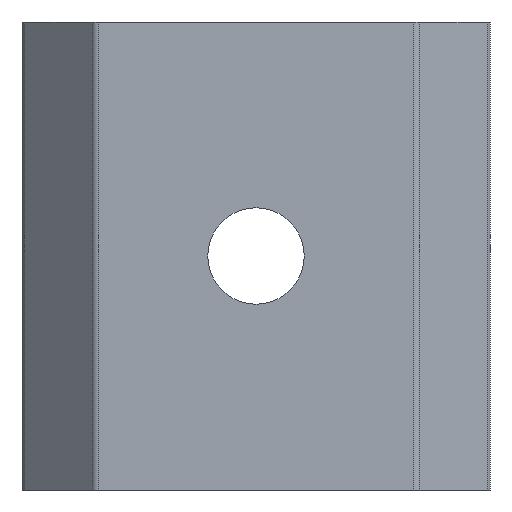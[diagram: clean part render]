
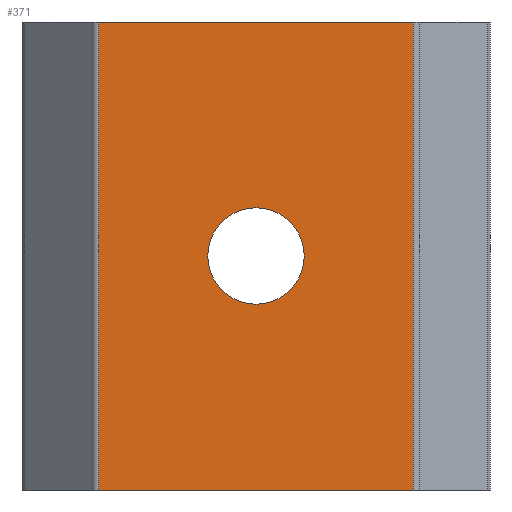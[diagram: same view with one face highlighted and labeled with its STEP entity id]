
A CAD part, front view. The second image highlights one B-rep face of the part: STEP entity #371.
In plain terms, the highlighted planar face has unit normal (0, -1, 0).
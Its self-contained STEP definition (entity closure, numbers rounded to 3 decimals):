
#25 = EDGE_LOOP ( 'NONE', ( #153, #78 ) ) ;
#56 = ORIENTED_EDGE ( 'NONE', *, *, #351, .T. ) ;
#73 = ORIENTED_EDGE ( 'NONE', *, *, #302, .T. ) ;
#74 = LINE ( 'NONE', #636, #802 ) ;
#78 = ORIENTED_EDGE ( 'NONE', *, *, #333, .T. ) ;
#100 = ORIENTED_EDGE ( 'NONE', *, *, #303, .F. ) ;
#134 = EDGE_LOOP ( 'NONE', ( #100, #56, #179, #73 ) ) ;
#144 = LINE ( 'NONE', #662, #737 ) ;
#151 = VERTEX_POINT ( 'NONE', #659 ) ;
#153 = ORIENTED_EDGE ( 'NONE', *, *, #399, .T. ) ;
#179 = ORIENTED_EDGE ( 'NONE', *, *, #319, .T. ) ;
#181 = LINE ( 'NONE', #647, #847 ) ;
#183 = VERTEX_POINT ( 'NONE', #674 ) ;
#211 = VERTEX_POINT ( 'NONE', #671 ) ;
#220 = VERTEX_POINT ( 'NONE', #689 ) ;
#231 = VERTEX_POINT ( 'NONE', #684 ) ;
#242 = VERTEX_POINT ( 'NONE', #668 ) ;
#258 = FACE_BOUND ( 'NONE', #25, .T. ) ;
#266 = LINE ( 'NONE', #445, #810 ) ;
#279 = FACE_OUTER_BOUND ( 'NONE', #134, .T. ) ;
#302 = EDGE_CURVE ( 'NONE', #242, #231, #144, .T. ) ;
#303 = EDGE_CURVE ( 'NONE', #183, #231, #181, .T. ) ;
#319 = EDGE_CURVE ( 'NONE', #151, #242, #74, .T. ) ;
#333 = EDGE_CURVE ( 'NONE', #220, #211, #804, .T. ) ;
#351 = EDGE_CURVE ( 'NONE', #183, #151, #266, .T. ) ;
#371 = ADVANCED_FACE ( 'NONE', ( #258, #279 ), #578, .F. ) ;
#399 = EDGE_CURVE ( 'NONE', #211, #220, #786, .T. ) ;
#435 = CARTESIAN_POINT ( 'NONE',  ( 0., 0., 0. ) ) ;
#445 = CARTESIAN_POINT ( 'NONE',  ( -5.376, 0., 8. ) ) ;
#446 = DIRECTION ( 'NONE',  ( 0., 0., -1. ) ) ;
#509 = DIRECTION ( 'NONE',  ( 0., 1., 0. ) ) ;
#518 = DIRECTION ( 'NONE',  ( 0., 0., 1. ) ) ;
#519 = CARTESIAN_POINT ( 'NONE',  ( 0., 0., 0. ) ) ;
#533 = DIRECTION ( 'NONE',  ( 0., 0., 1. ) ) ;
#541 = DIRECTION ( 'NONE',  ( 0., 1., 0. ) ) ;
#575 = DIRECTION ( 'NONE',  ( -1., 0., 0. ) ) ;
#576 = DIRECTION ( 'NONE',  ( 0., 1., 0. ) ) ;
#577 = CARTESIAN_POINT ( 'NONE',  ( 5.5, 0., 8. ) ) ;
#578 = PLANE ( 'NONE',  #763 ) ;
#631 = DIRECTION ( 'NONE',  ( 1., 0., 0. ) ) ;
#636 = CARTESIAN_POINT ( 'NONE',  ( 5.5, 0., -8. ) ) ;
#637 = DIRECTION ( 'NONE',  ( 1., 0., 0. ) ) ;
#647 = CARTESIAN_POINT ( 'NONE',  ( 5.5, 0., 8. ) ) ;
#656 = DIRECTION ( 'NONE',  ( 0., 0., 1. ) ) ;
#659 = CARTESIAN_POINT ( 'NONE',  ( -5.376, 0., -8. ) ) ;
#662 = CARTESIAN_POINT ( 'NONE',  ( 5.376, 0., 8. ) ) ;
#668 = CARTESIAN_POINT ( 'NONE',  ( 5.376, 0., -8. ) ) ;
#671 = CARTESIAN_POINT ( 'NONE',  ( 0., 0., 1.65 ) ) ;
#674 = CARTESIAN_POINT ( 'NONE',  ( -5.376, 0., 8. ) ) ;
#684 = CARTESIAN_POINT ( 'NONE',  ( 5.376, 0., 8. ) ) ;
#689 = CARTESIAN_POINT ( 'NONE',  ( 0., 0., -1.65 ) ) ;
#723 = AXIS2_PLACEMENT_3D ( 'NONE', #519, #509, #518 ) ;
#733 = AXIS2_PLACEMENT_3D ( 'NONE', #435, #541, #533 ) ;
#737 = VECTOR ( 'NONE', #656, 1000. ) ;
#763 = AXIS2_PLACEMENT_3D ( 'NONE', #577, #576, #575 ) ;
#786 = CIRCLE ( 'NONE', #723, 1.65 ) ;
#802 = VECTOR ( 'NONE', #637, 1000. ) ;
#804 = CIRCLE ( 'NONE', #733, 1.65 ) ;
#810 = VECTOR ( 'NONE', #446, 1000. ) ;
#847 = VECTOR ( 'NONE', #631, 1000. ) ;
